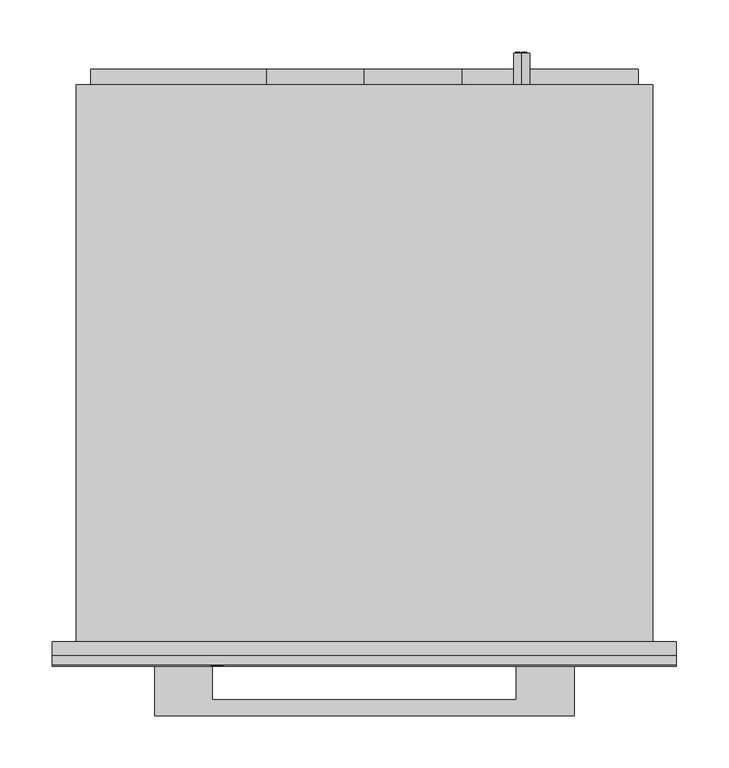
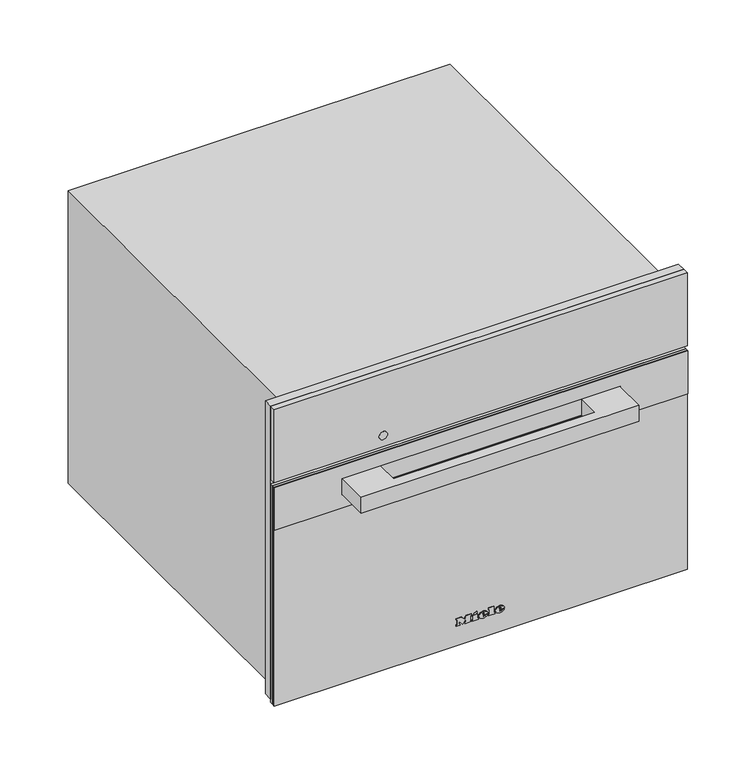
"""IFC4 building model written with IfcOpenShell, lengths in millimetres: proxy geometry, 11159340_CN_DG7440C_EDST-CLST : 23744040_CN_11159340_DG7440C_EDST-CLST."""

from ifc_helpers import new_model, si_unit, point, frame, frame_2d, origin, place, context, project, spatial, polyline, circle_curve, ellipse_curve, trimmed, segment, composite_curve, outline, extrude, faceted_brep, source, transform, mapped, element, save
from ifc_brep_helpers import plane_surface, cylinder_surface, revolved_surface, extruded_surface, advanced_brep


def specialty_equipment_7dd47745(model_context):
    return source(origin(), model_context, "Body", "SolidModel", [
        extrude(outline(polyline([(455.0, 297.5), (455.0, -297.5), (9.0, -297.5), (9.0, -272.5), (344.0, -272.5), (344.0, 272.5), (9.0, 272.5), (9.0, 297.5), (455.0, 297.5)])), frame((0.0, -13.0, 0.0), z_axis=(0.0, 1.0, 0.0), x_axis=(0.0, 0.0, 1.0)), (0.0, 0.0, 1.0), 13.0),
        advanced_brep(
        [(150.0, 561.0, 410.5), (150.0, 561.0, 395.5), (144.4098301, 561.0, 398.0), (148.5, 561.0, 398.0), (148.5, 561.0, 408.0), (147.4955303, 561.0, 408.0), (147.4955303, 561.0, 399.0), (144.0315043, 561.0, 399.0), (144.0315043, 561.0, 398.4582978), (155.0, 561.0, 398.0), (155.0, 561.0, 408.0), (150.0, 561.0, 408.0), (150.0, 561.0, 407.0), (154.0, 561.0, 407.0), (154.0, 561.0, 403.5), (151.0, 561.0, 403.5), (151.0, 561.0, 402.5), (154.0, 561.0, 402.5), (154.0, 561.0, 399.0), (150.0, 561.0, 399.0), (150.0, 561.0, 398.0), (150.0, 531.0, 395.5), (150.0, 531.0, 410.5), (155.0, 562.0, 408.0), (155.0, 562.0, 398.0), (150.0, 562.0, 398.0), (150.0, 562.0, 399.0), (154.0, 562.0, 399.0), (154.0, 562.0, 402.5), (151.0, 562.0, 402.5), (151.0, 562.0, 403.5), (154.0, 562.0, 403.5), (154.0, 562.0, 407.0), (150.0, 562.0, 407.0), (150.0, 562.0, 408.0), (148.5, 562.0, 398.0), (144.0315043, 562.0, 398.0), (144.0315043, 562.0, 399.0), (147.4955303, 562.0, 399.0), (147.4955303, 562.0, 408.0), (148.5, 562.0, 408.0), (144.0315043, 561.0, 398.0)],
        [
            (0, 1, circle_curve(frame((150.0, 561.0, 403.0), z_axis=(0.0, 1.0, 0.0), x_axis=(0.0, 0.0, 1.0)), 7.5)),
            (1, 2, circle_curve(frame((150.0, 561.0, 403.0), z_axis=(0.0, 1.0, 0.0), x_axis=(0.0, 0.0, 1.0)), 7.5)),
            (2, 3),
            (3, 4),
            (4, 5),
            (5, 6),
            (6, 7),
            (7, 8),
            (8, 0, circle_curve(frame((150.0, 561.0, 403.0), z_axis=(0.0, 1.0, 0.0), x_axis=(0.0, 0.0, 1.0)), 7.5)),
            (9, 10),
            (10, 11),
            (11, 12),
            (12, 13),
            (13, 14),
            (14, 15),
            (15, 16),
            (16, 17),
            (17, 18),
            (18, 19),
            (19, 20),
            (20, 9),
            (21, 22, circle_curve(frame((150.0, 531.0, 403.0), z_axis=(0.0, -1.0, 0.0), x_axis=(0.0, 0.0, 1.0)), 7.5)),
            (22, 21, circle_curve(frame((150.0, 531.0, 403.0), z_axis=(0.0, -1.0, 0.0), x_axis=(0.0, 0.0, 1.0)), 7.5)),
            (0, 22),
            (21, 1),
            (8, 2, circle_curve(frame((150.0, 561.0, 403.0), z_axis=(0.0, -1.0, 0.0), x_axis=(0.0, 0.0, 1.0)), 7.5)),
            (23, 24),
            (24, 25),
            (25, 26),
            (26, 27),
            (27, 28),
            (28, 29),
            (29, 30),
            (30, 31),
            (31, 32),
            (32, 33),
            (33, 34),
            (34, 23),
            (35, 36),
            (36, 37),
            (37, 38),
            (38, 39),
            (39, 40),
            (40, 35),
            (8, 41),
            (41, 2),
            (23, 10),
            (9, 24),
            (20, 25),
            (19, 26),
            (18, 27),
            (17, 28),
            (16, 29),
            (15, 30),
            (14, 31),
            (13, 32),
            (12, 33),
            (11, 34),
            (35, 3),
            (41, 36),
            (7, 37),
            (6, 38),
            (5, 39),
            (4, 40),
        ],
        [
            plane_surface(frame((150.0, 561.0, 410.5), z_axis=(0.0, 1.0, 0.0), x_axis=(1.0, 0.0, 0.0))),
            plane_surface(frame((150.0, 531.0, 410.5), z_axis=(0.0, -1.0, 0.0), x_axis=(-1.0, 0.0, 0.0))),
            cylinder_surface(frame((150.0, 561.0, 403.0), z_axis=(0.0, -1.0, 0.0), x_axis=(0.0, 0.0, 1.0)), 7.5),
            plane_surface(frame((155.0, 562.0, 408.0), z_axis=(0.0, 1.0, 0.0), x_axis=(0.0, 0.0, -1.0))),
            plane_surface(frame((155.0, 561.0, 408.0), z_axis=(0.0, -1.0, 0.0), x_axis=(0.0, 0.0, 1.0))),
            plane_surface(frame((155.0, 562.0, 408.0), z_axis=(1.0, 0.0, 0.0), x_axis=(0.0, -1.0, 0.0))),
            plane_surface(frame((155.0, 562.0, 398.0), z_axis=(0.0, 0.0, -1.0), x_axis=(0.0, -1.0, 0.0))),
            plane_surface(frame((150.0, 562.0, 398.0), z_axis=(-1.0, 0.0, 0.0), x_axis=(0.0, -1.0, 0.0))),
            plane_surface(frame((150.0, 562.0, 399.0), z_axis=(0.0, 0.0, 1.0), x_axis=(0.0, -1.0, 0.0))),
            plane_surface(frame((154.0, 562.0, 399.0), z_axis=(-1.0, 0.0, 0.0), x_axis=(0.0, -1.0, 0.0))),
            plane_surface(frame((154.0, 562.0, 402.5), z_axis=(0.0, 0.0, -1.0), x_axis=(0.0, -1.0, 0.0))),
            plane_surface(frame((151.0, 562.0, 402.5), z_axis=(-1.0, 0.0, 0.0), x_axis=(0.0, -1.0, 0.0))),
            plane_surface(frame((151.0, 562.0, 403.5), z_axis=(0.0, 0.0, 1.0), x_axis=(0.0, -1.0, 0.0))),
            plane_surface(frame((154.0, 562.0, 403.5), z_axis=(-1.0, 0.0, 0.0), x_axis=(0.0, -1.0, 0.0))),
            plane_surface(frame((154.0, 562.0, 407.0), z_axis=(0.0, 0.0, -1.0), x_axis=(0.0, -1.0, 0.0))),
            plane_surface(frame((150.0, 562.0, 407.0), z_axis=(-1.0, 0.0, 0.0), x_axis=(0.0, -1.0, 0.0))),
            plane_surface(frame((150.0, 562.0, 408.0), z_axis=(0.0, 0.0, 1.0), x_axis=(0.0, -1.0, 0.0))),
            plane_surface(frame((148.5, 562.0, 398.0), z_axis=(0.0, 0.0, -1.0), x_axis=(0.0, -1.0, 0.0))),
            plane_surface(frame((144.0315043, 562.0, 398.0), z_axis=(-1.0, 0.0, 0.0), x_axis=(0.0, -1.0, 0.0))),
            plane_surface(frame((144.0315043, 562.0, 399.0), z_axis=(0.0, 0.0, 1.0), x_axis=(0.0, -1.0, 0.0))),
            plane_surface(frame((147.4955303, 562.0, 399.0), z_axis=(-1.0, 0.0, 0.0), x_axis=(0.0, -1.0, 0.0))),
            plane_surface(frame((147.4955303, 562.0, 408.0), z_axis=(0.0, 0.0, 1.0), x_axis=(0.0, -1.0, 0.0))),
            plane_surface(frame((148.5, 562.0, 408.0), z_axis=(1.0, 0.0, 0.0), x_axis=(0.0, -1.0, 0.0))),
        ],
        [
            (0, [[1, 2, 3, 4, 5, 6, 7, 8, 9], [10, 11, 12, 13, 14, 15, 16, 17, 18, 19, 20, 21]]),
            (1, [[22, 23]]),
            (2, [[-1, 24, -22, 25]]),
            (2, [[-23, -24, -9, 26, -2, -25]]),
            (3, [[27, 28, 29, 30, 31, 32, 33, 34, 35, 36, 37, 38]]),
            (3, [[39, 40, 41, 42, 43, 44]]),
            (4, [[45, 46, -26]]),
            (5, [[-27, 47, -10, 48]]),
            (6, [[-28, -48, -21, 49]]),
            (7, [[-29, -49, -20, 50]]),
            (8, [[-30, -50, -19, 51]]),
            (9, [[-31, -51, -18, 52]]),
            (10, [[-32, -52, -17, 53]]),
            (11, [[-33, -53, -16, 54]]),
            (12, [[-34, -54, -15, 55]]),
            (13, [[-35, -55, -14, 56]]),
            (14, [[-36, -56, -13, 57]]),
            (15, [[-37, -57, -12, 58]]),
            (16, [[-38, -58, -11, -47]]),
            (17, [[-39, 59, -3, -46, 60]]),
            (18, [[-40, -60, -45, -8, 61]]),
            (19, [[-41, -61, -7, 62]]),
            (20, [[-42, -62, -6, 63]]),
            (21, [[-43, -63, -5, 64]]),
            (22, [[-44, -64, -4, -59]]),
        ],
    ),
        extrude(outline(polyline([(299.0, -93.0), (258.0, -93.0), (258.0, -261.0), (111.0, -261.0), (111.0, -93.0), (70.0, -93.0), (70.0, 0.0), (70.0, 93.0), (111.0, 93.0), (111.0, 261.0), (258.0, 261.0), (258.0, 93.0), (299.0, 93.0), (299.0, 0.0), (299.0, -93.0)])), frame((0.0, 531.0, 0.0), z_axis=(0.0, 1.0, 0.0), x_axis=(0.0, 0.0, 1.0)), (0.0, 0.0, 1.0), 15.0),
        faceted_brep([(275.0, 531.0, 445.0), (275.0, 531.0, 0.0), (-275.0, 531.0, 0.0), (-275.0, 531.0, 445.0), (275.0, 0.0, 445.0), (-275.0, 0.0, 445.0), (-275.0, 0.0, 0.0), (275.0, 0.0, 0.0), (-272.5, 0.0, 344.0), (272.5, 0.0, 344.0), (272.5, 0.0, 8.0), (-272.5, 0.0, 8.0), (272.5, 34.0, 344.0), (-272.5, 34.0, 344.0), (-272.5, 34.0, 8.0), (272.5, 34.0, 8.0), (161.0, 34.0, 286.0), (161.0, 34.0, 58.0), (-220.0, 34.0, 58.0), (-220.0, 34.0, 286.0), (161.0, 444.0, 286.0), (-220.0, 444.0, 286.0), (-220.0, 444.0, 58.0), (161.0, 444.0, 58.0)], [[[0, 1, 2, 3]], [[4, 5, 6, 7], [8, 9, 10, 11]], [[0, 3, 5, 4]], [[3, 2, 6, 5]], [[2, 1, 7, 6]], [[1, 0, 4, 7]], [[12, 13, 14, 15], [16, 17, 18, 19]], [[13, 12, 9, 8]], [[14, 13, 8, 11]], [[15, 14, 11, 10]], [[12, 15, 10, 9]], [[20, 21, 22, 23]], [[20, 23, 17, 16]], [[23, 22, 18, 17]], [[22, 21, 19, 18]], [[21, 20, 16, 19]]]),
        advanced_brep(
        [(26.2998, -23.0, 36.7018), (26.2998, -23.0, 37.8532), (33.9264, -23.0, 37.8532), (20.6568, -23.0, 37.8532), (23.7918, -23.0, 34.0), (33.7326, -23.0, 36.7018), (30.2898, -23.0, 36.7018), (27.5766, -23.0, 35.425), (26.2998, -23.0, 39.3124), (26.2998, -23.0, 40.555), (28.2492, -23.0, 40.555), (28.2492, -23.0, 39.3124), (26.2998, -22.0, 36.7018), (27.5766, -22.0, 35.425), (30.2898, -22.0, 36.7018), (33.7326, -22.0, 36.7018), (23.7918, -22.0, 34.0), (20.6568, -22.0, 37.8532), (33.9264, -22.0, 37.8532), (26.2998, -22.0, 37.8532), (26.2998, -22.0, 39.3124), (28.2492, -22.0, 39.3124), (28.2492, -22.0, 40.555), (26.2998, -22.0, 40.555)],
        [
            (0, 1),
            (1, 2),
            (2, 3, ellipse_curve(frame((27.2916, -23.0, 37.8532), z_axis=(0.0, -1.0, 0.0), x_axis=(-1.0, 0.0, 0.0)), 6.6348, 5.4834)),
            (3, 4, circle_curve(frame((25.0686622, -23.0, 38.2408), z_axis=(0.0, -1.0, 0.0), x_axis=(0.0, 0.0, -1.0)), 4.4288556)),
            (4, 5, circle_curve(frame((27.1587808, -23.0, 41.2504), z_axis=(0.0, -1.0, 0.0), x_axis=(0.0, 0.0, -1.0)), 7.9940516)),
            (5, 6),
            (6, 7, circle_curve(frame((28.1338588, -23.0, 37.762), z_axis=(0.0, 1.0, 0.0), x_axis=(0.0, 0.0, -1.0)), 2.4025208)),
            (7, 0, circle_curve(frame((27.5766, -23.0, 36.7018), z_axis=(0.0, 1.0, 0.0), x_axis=(0.0, 0.0, -1.0)), 1.2768)),
            (8, 9),
            (9, 10, circle_curve(frame((27.2745, -23.0, 40.555), z_axis=(0.0, 1.0, 0.0), x_axis=(0.0, 0.0, -1.0)), 0.9747)),
            (10, 11),
            (11, 8),
            (12, 13, circle_curve(frame((27.5766, -22.0, 36.7018), z_axis=(0.0, -1.0, 0.0), x_axis=(0.0, 0.0, -1.0)), 1.2768)),
            (13, 14, circle_curve(frame((28.1338588, -22.0, 37.762), z_axis=(0.0, -1.0, 0.0), x_axis=(0.0, 0.0, -1.0)), 2.4025208)),
            (14, 15),
            (15, 16, circle_curve(frame((27.1587808, -22.0, 41.2504), z_axis=(0.0, 1.0, 0.0), x_axis=(0.0, 0.0, -1.0)), 7.9940516)),
            (16, 17, circle_curve(frame((25.0686622, -22.0, 38.2408), z_axis=(0.0, 1.0, 0.0), x_axis=(0.0, 0.0, -1.0)), 4.4288556)),
            (17, 18, ellipse_curve(frame((27.2916, -22.0, 37.8532), z_axis=(0.0, 1.0, 0.0), x_axis=(-1.0, 0.0, 0.0)), 6.6348, 5.4834)),
            (18, 19),
            (19, 12),
            (20, 21),
            (21, 22),
            (22, 23, circle_curve(frame((27.2745, -22.0, 40.555), z_axis=(0.0, -1.0, 0.0), x_axis=(0.0, 0.0, -1.0)), 0.9747)),
            (23, 20),
            (0, 12),
            (19, 1),
            (18, 2),
            (5, 15),
            (14, 6),
            (17, 3),
            (13, 7),
            (16, 4),
            (8, 20),
            (23, 9),
            (22, 10),
            (21, 11),
        ],
        [
            plane_surface(frame((26.2998, -23.0, 37.8532), z_axis=(0.0, -1.0, 0.0), x_axis=(0.0, 0.0, 1.0))),
            plane_surface(frame((26.2998, -22.0, 37.8532), z_axis=(0.0, 1.0, 0.0), x_axis=(0.0, 0.0, -1.0))),
            plane_surface(frame((26.2998, -23.0, 36.7018), z_axis=(1.0, 0.0, 0.0), x_axis=(0.0, 1.0, 0.0))),
            plane_surface(frame((26.2998, -23.0, 37.8532), z_axis=(0.0, 0.0, -1.0), x_axis=(0.0, 1.0, 0.0))),
            plane_surface(frame((33.7326, -23.0, 36.7018), z_axis=(0.0, 0.0, 1.0), x_axis=(0.0, 1.0, 0.0))),
            extruded_surface(trimmed(ellipse_curve(frame((27.2916, -21.0, 37.8532), z_axis=(0.0, -1.0, 0.0), x_axis=(-1.0, 0.0, 0.0)), 6.6348, 5.4834), [point((33.9264, -21.0, 37.8532))], [point((20.6568, -21.0, 37.8532))], True, "CARTESIAN"), (0.0, -1.0, 0.0), 1.0),
            revolved_surface(polyline([(28.1338588, -22.0, 35.3594792), (28.1338588, -23.0, 35.3594792)]), (28.1338588, -22.0, 37.762), (0.0, 1.0, 0.0)),
            revolved_surface(polyline([(27.5766, -22.0, 35.425), (27.5766, -23.0, 35.425)]), (27.5766, -22.0, 36.7018), (0.0, 1.0, 0.0)),
            cylinder_surface(frame((25.0686622, -22.0, 38.2408), z_axis=(0.0, -1.0, 0.0), x_axis=(0.0, 0.0, -1.0)), 4.4288556),
            cylinder_surface(frame((27.1587808, -22.0, 41.2504), z_axis=(0.0, -1.0, 0.0), x_axis=(0.0, 0.0, -1.0)), 7.9940516),
            plane_surface(frame((26.2998, -23.0, 39.3124), z_axis=(1.0, 0.0, 0.0), x_axis=(0.0, 1.0, 0.0))),
            revolved_surface(polyline([(27.2745, -22.0, 39.5803), (27.2745, -23.0, 39.5803)]), (27.2745, -22.0, 40.555), (0.0, 1.0, 0.0)),
            plane_surface(frame((28.2492, -23.0, 40.555), z_axis=(-1.0, 0.0, 0.0), x_axis=(0.0, 1.0, 0.0))),
            plane_surface(frame((28.2492, -23.0, 39.3124), z_axis=(0.0, 0.0, 1.0), x_axis=(0.0, 1.0, 0.0))),
        ],
        [
            (0, [[1, 2, 3, 4, 5, 6, 7, 8], [9, 10, 11, 12]]),
            (1, [[13, 14, 15, 16, 17, 18, 19, 20], [21, 22, 23, 24]]),
            (2, [[-1, 25, -20, 26]]),
            (3, [[-2, -26, -19, 27]]),
            (4, [[-6, 28, -15, 29]]),
            (5, [[-3, -27, -18, 30]]),
            (6, [[-7, -29, -14, 31]]),
            (7, [[-8, -31, -13, -25]]),
            (8, [[-4, -30, -17, 32]]),
            (9, [[-5, -32, -16, -28]]),
            (10, [[-9, 33, -24, 34]]),
            (11, [[-10, -34, -23, 35]]),
            (12, [[-11, -35, -22, 36]]),
            (13, [[-12, -36, -21, -33]]),
        ],
    ),
        advanced_brep(
        [(2.508, -23.0, 36.7018), (2.508, -23.0, 37.8532), (10.1346, -23.0, 37.8532), (-3.135, -23.0, 37.8532), (0.0, -23.0, 34.0), (9.9408, -23.0, 36.7018), (6.498, -23.0, 36.7018), (3.7848, -23.0, 35.425), (2.508, -23.0, 39.3124), (2.508, -23.0, 40.555), (4.4574, -23.0, 40.555), (4.4574, -23.0, 39.3124), (2.508, -22.0, 36.7018), (3.7848, -22.0, 35.425), (6.498, -22.0, 36.7018), (9.9408, -22.0, 36.7018), (0.0, -22.0, 34.0), (-3.135, -22.0, 37.8532), (10.1346, -22.0, 37.8532), (2.508, -22.0, 37.8532), (2.508, -22.0, 39.3124), (4.4574, -22.0, 39.3124), (4.4574, -22.0, 40.555), (2.508, -22.0, 40.555)],
        [
            (0, 1),
            (1, 2),
            (2, 3, ellipse_curve(frame((3.4998, -23.0, 37.8532), z_axis=(0.0, -1.0, 0.0), x_axis=(-1.0, 0.0, 0.0)), 6.6348, 5.4834)),
            (3, 4, circle_curve(frame((1.2768622, -23.0, 38.2408), z_axis=(0.0, -1.0, 0.0), x_axis=(0.0, 0.0, -1.0)), 4.4288556)),
            (4, 5, circle_curve(frame((3.3669808, -23.0, 41.2504), z_axis=(0.0, -1.0, 0.0), x_axis=(0.0, 0.0, -1.0)), 7.9940516)),
            (5, 6),
            (6, 7, circle_curve(frame((4.3420588, -23.0, 37.762), z_axis=(0.0, 1.0, 0.0), x_axis=(0.0, 0.0, -1.0)), 2.4025208)),
            (7, 0, circle_curve(frame((3.7848, -23.0, 36.7018), z_axis=(0.0, 1.0, 0.0), x_axis=(0.0, 0.0, -1.0)), 1.2768)),
            (8, 9),
            (9, 10, circle_curve(frame((3.4827, -23.0, 40.555), z_axis=(0.0, 1.0, 0.0), x_axis=(0.0, 0.0, -1.0)), 0.9747)),
            (10, 11),
            (11, 8),
            (12, 13, circle_curve(frame((3.7848, -22.0, 36.7018), z_axis=(0.0, -1.0, 0.0), x_axis=(0.0, 0.0, -1.0)), 1.2768)),
            (13, 14, circle_curve(frame((4.3420588, -22.0, 37.762), z_axis=(0.0, -1.0, 0.0), x_axis=(0.0, 0.0, -1.0)), 2.4025208)),
            (14, 15),
            (15, 16, circle_curve(frame((3.3669808, -22.0, 41.2504), z_axis=(0.0, 1.0, 0.0), x_axis=(0.0, 0.0, -1.0)), 7.9940516)),
            (16, 17, circle_curve(frame((1.2768622, -22.0, 38.2408), z_axis=(0.0, 1.0, 0.0), x_axis=(0.0, 0.0, -1.0)), 4.4288556)),
            (17, 18, ellipse_curve(frame((3.4998, -22.0, 37.8532), z_axis=(0.0, 1.0, 0.0), x_axis=(-1.0, 0.0, 0.0)), 6.6348, 5.4834)),
            (18, 19),
            (19, 12),
            (20, 21),
            (21, 22),
            (22, 23, circle_curve(frame((3.4827, -22.0, 40.555), z_axis=(0.0, -1.0, 0.0), x_axis=(0.0, 0.0, -1.0)), 0.9747)),
            (23, 20),
            (0, 12),
            (19, 1),
            (18, 2),
            (5, 15),
            (14, 6),
            (17, 3),
            (13, 7),
            (16, 4),
            (8, 20),
            (23, 9),
            (22, 10),
            (21, 11),
        ],
        [
            plane_surface(frame((2.508, -23.0, 37.8532), z_axis=(0.0, -1.0, 0.0), x_axis=(0.0, 0.0, 1.0))),
            plane_surface(frame((2.508, -22.0, 37.8532), z_axis=(0.0, 1.0, 0.0), x_axis=(0.0, 0.0, -1.0))),
            plane_surface(frame((2.508, -23.0, 36.7018), z_axis=(1.0, 0.0, 0.0), x_axis=(0.0, 1.0, 0.0))),
            plane_surface(frame((2.508, -23.0, 37.8532), z_axis=(0.0, 0.0, -1.0), x_axis=(0.0, 1.0, 0.0))),
            plane_surface(frame((9.9408, -23.0, 36.7018), z_axis=(0.0, 0.0, 1.0), x_axis=(0.0, 1.0, 0.0))),
            extruded_surface(trimmed(ellipse_curve(frame((3.4998, -21.0, 37.8532), z_axis=(0.0, -1.0, 0.0), x_axis=(-1.0, 0.0, 0.0)), 6.6348, 5.4834), [point((10.1346, -21.0, 37.8532))], [point((-3.135, -21.0, 37.8532))], True, "CARTESIAN"), (0.0, -1.0, 0.0), 1.0),
            revolved_surface(polyline([(4.3420588, -22.0, 35.3594792), (4.3420588, -23.0, 35.3594792)]), (4.3420588, -22.0, 37.762), (0.0, 1.0, 0.0)),
            revolved_surface(polyline([(3.7848, -22.0, 35.425), (3.7848, -23.0, 35.425)]), (3.7848, -22.0, 36.7018), (0.0, 1.0, 0.0)),
            cylinder_surface(frame((1.2768622, -22.0, 38.2408), z_axis=(0.0, -1.0, 0.0), x_axis=(0.0, 0.0, -1.0)), 4.4288556),
            cylinder_surface(frame((3.3669808, -22.0, 41.2504), z_axis=(0.0, -1.0, 0.0), x_axis=(0.0, 0.0, -1.0)), 7.9940516),
            plane_surface(frame((2.508, -23.0, 39.3124), z_axis=(1.0, 0.0, 0.0), x_axis=(0.0, 1.0, 0.0))),
            revolved_surface(polyline([(3.4827, -22.0, 39.5803), (3.4827, -23.0, 39.5803)]), (3.4827, -22.0, 40.555), (0.0, 1.0, 0.0)),
            plane_surface(frame((4.4574, -23.0, 40.555), z_axis=(-1.0, 0.0, 0.0), x_axis=(0.0, 1.0, 0.0))),
            plane_surface(frame((4.4574, -23.0, 39.3124), z_axis=(0.0, 0.0, 1.0), x_axis=(0.0, 1.0, 0.0))),
        ],
        [
            (0, [[1, 2, 3, 4, 5, 6, 7, 8], [9, 10, 11, 12]]),
            (1, [[13, 14, 15, 16, 17, 18, 19, 20], [21, 22, 23, 24]]),
            (2, [[-1, 25, -20, 26]]),
            (3, [[-2, -26, -19, 27]]),
            (4, [[-6, 28, -15, 29]]),
            (5, [[-3, -27, -18, 30]]),
            (6, [[-7, -29, -14, 31]]),
            (7, [[-8, -31, -13, -25]]),
            (8, [[-4, -30, -17, 32]]),
            (9, [[-5, -32, -16, -28]]),
            (10, [[-9, 33, -24, 34]]),
            (11, [[-10, -34, -23, 35]]),
            (12, [[-11, -35, -22, 36]]),
            (13, [[-12, -36, -21, -33]]),
        ],
    ),
        extrude(outline(polyline([(44.7274, -9.9522), (42.8806, -9.0858), (44.6818, -5.2212), (46.5286, -6.0762), (44.7274, -9.9522)])), frame((0.0, -23.0, 0.0), z_axis=(0.0, 1.0, 0.0), x_axis=(0.0, 0.0, 1.0)), (0.0, 0.0, 1.0), 1.0),
        extrude(outline(polyline([(42.6298, -12.768), (40.5892, -12.768), (40.5892, -11.4114), (35.9152, -11.4114), (35.9152, -12.768), (34.0, -12.768), (34.0, -3.7734), (35.9152, -3.7734), (35.9152, -5.0958), (42.6298, -5.0958), (42.6298, -12.768)])), frame((0.0, -23.0, 0.0), z_axis=(0.0, 1.0, 0.0), x_axis=(0.0, 0.0, 1.0)), (0.0, 0.0, 1.0), 1.0),
        extrude(outline(polyline([(43.5418, 10.773), (43.5418, 12.141), (35.9152, 12.141), (35.9152, 10.773), (34.0, 10.773), (34.0, 20.0184), (35.9152, 20.0184), (35.9152, 18.6162), (45.4, 18.6162), (45.4, 10.773), (43.5418, 10.773)])), frame((0.0, -23.0, 0.0), z_axis=(0.0, 1.0, 0.0), x_axis=(0.0, 0.0, 1.0)), (0.0, 0.0, 1.0), 1.0),
        extrude(outline(polyline([(43.5418, -35.4882), (43.5418, -34.1088), (35.9152, -34.1088), (35.9152, -35.4882), (34.0, -35.4882), (34.0, -30.4722), (35.9152, -30.4722), (35.9152, -31.8402), (40.7429247, -31.8402), (34.0, -26.7444), (40.9402223, -21.6258), (35.9152, -21.6258), (35.9152, -23.028), (34.0, -23.028), (34.0, -13.9308), (35.9152, -13.9308), (35.9152, -15.3786), (43.5418, -15.3786), (43.5418, -13.9308), (45.4, -13.9308), (45.4, -20.8734), (41.125, -24.2022), (45.4, -27.5424), (45.4, -35.4882), (43.5418, -35.4882)])), frame((0.0, -23.0, 0.0), z_axis=(0.0, 1.0, 0.0), x_axis=(0.0, 0.0, 1.0)), (0.0, 0.0, 1.0), 1.0),
        extrude(outline(polyline([(297.5, -22.0), (-297.5, -22.0), (-297.5, -13.0), (297.5, -13.0), (297.5, -22.0)])), frame((0.0, 0.0, 344.0), z_axis=(0.0, 0.0, 1.0), x_axis=(1.0, 0.0, 0.0)), (0.0, 0.0, 1.0), 111.0),
        extrude(outline(composite_curve([segment(trimmed(circle_curve(frame_2d((361.0, -140.5745637)), 6.0), [point((361.0, -146.5745637))], [point((361.0, -134.5745637))], False, "CARTESIAN"), True, "CONTINUOUS"), segment(trimmed(circle_curve(frame_2d((361.0, -140.5745637)), 6.0), [point((361.0, -134.5745637))], [point((361.0, -146.5745637))], False, "CARTESIAN"), True, "CONTINUOUS")], self_intersect=False)), frame((0.0, -22.5, 0.0), z_axis=(0.0, 1.0, 0.0), x_axis=(0.0, 0.0, 1.0)), (0.0, 0.0, 1.0), 1.0),
        extrude(outline(polyline([(297.5, -18.0), (-297.5, -18.0), (-297.5, -13.0), (297.5, -13.0), (297.5, -18.0)])), frame((0.0, 0.0, 4.0), z_axis=(0.0, 0.0, 1.0), x_axis=(1.0, 0.0, 0.0)), (0.0, 0.0, 1.0), 333.0),
        extrude(outline(polyline([(-297.5, -18.0), (297.5, -18.0), (297.5, -22.0), (-297.5, -22.0), (-297.5, -18.0)])), frame((0.0, 0.0, 4.0), z_axis=(0.0, 0.0, 1.0), x_axis=(1.0, 0.0, 0.0)), (0.0, 0.0, 1.0), 333.0),
        extrude(outline(polyline([(-200.0, -70.3), (-200.0, -22.0), (-145.0, -22.0), (-145.0, -55.3), (145.0, -55.3), (145.0, -22.0), (200.0, -22.0), (200.0, -70.3), (-200.0, -70.3)])), frame((0.0, 0.0, 292.5), z_axis=(0.0, 0.0, 1.0), x_axis=(1.0, 0.0, 0.0)), (0.0, 0.0, 1.0), 24.0),
        extrude(outline(polyline([(337.0, 297.5), (337.0, -297.5), (272.0, -297.5), (272.0, 297.5), (337.0, 297.5)]), holes=[polyline([(317.0, -200.5), (317.0, 200.5), (292.0, 200.5), (292.0, -200.5), (317.0, -200.5)])]), frame((0.0, -23.3, 0.0), z_axis=(0.0, 1.0, 0.0), x_axis=(0.0, 0.0, 1.0)), (0.0, 0.0, 1.0), 1.3),
    ])


if __name__ == "__main__":
    model = new_model("IFC4")
    model_context = context("Model", 3, world=origin())
    ifc_project = project(units=[si_unit("LENGTHUNIT", "METRE", prefix="MILLI")], contexts=[model_context])
    site = spatial("IfcSite", under=ifc_project)
    building = spatial("IfcBuilding", under=site)
    placement = place(None, origin())
    specialty_equipment_shape = specialty_equipment_7dd47745(model_context)
    element("IfcBuildingElementProxy", 1, Name="11159340_CN_DG7440C_EDST-CLST : 23744040_CN_11159340_DG7440C_EDST-CLST", ObjectType="11159340_CN_DG7440C_EDST-CLST : 23744040_CN_11159340_DG7440C_EDST-CLST", at=placement, inside=building, context=model_context, shape_type="MappedRepresentation", body=[
        mapped(specialty_equipment_shape, transform((0.0, 0.0, 0.0), x_axis=(1.0, 0.0, 0.0), y_axis=(0.0, 1.0, 0.0), z_axis=(0.0, 0.0, 1.0))),
    ])
    save(model, "model.ifc")
